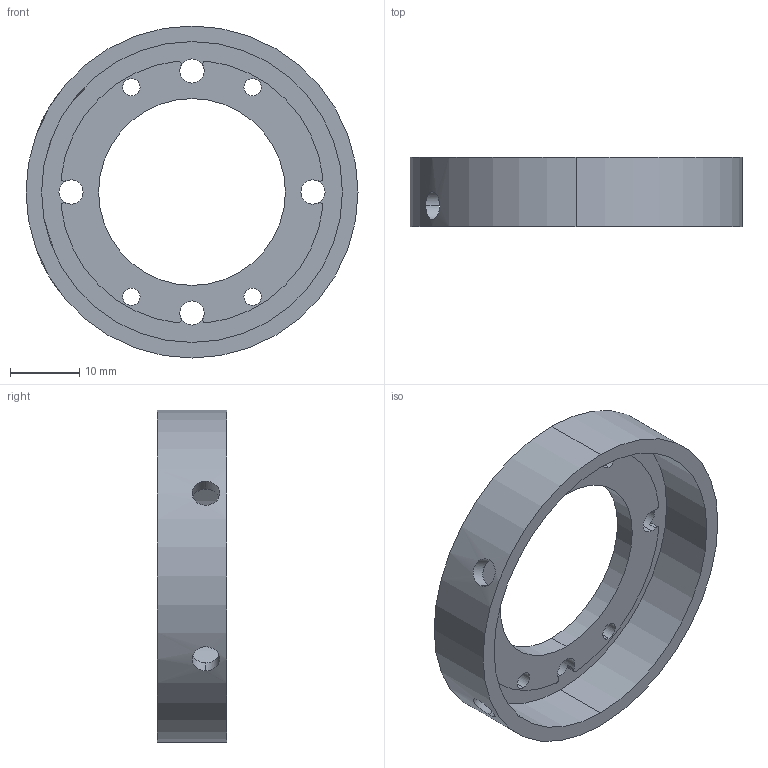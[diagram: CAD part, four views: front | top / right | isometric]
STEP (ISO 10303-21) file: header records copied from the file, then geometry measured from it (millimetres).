
FILE_DESCRIPTION (( 'STEP AP203' ), '1' );
FILE_NAME ('OPT_GRISM_0010 [2026-04-04].STEP', '2026-04-04T10:55:45', ( '' ), ( '' ), 'SwSTEP 2.0', 'SolidWorks 2014', '' );
FILE_SCHEMA (( 'CONFIG_CONTROL_DESIGN' ));
Length unit declared in the file: millimetre
Products named in the file (1): OPT_GRISM_0010 [2026-04-04]
Bounding box: 48 x 10 x 48 mm (x, y, z)
Volume: 5327.1 mm3; surface area: 5587.7 mm2
Topology: 1 solids, 1 shells, 46 faces, 138 edges, 92 vertices
Faces by surface type: cylinder 42, plane 4
Entity records: 1927 total; most frequent: CARTESIAN_POINT 493, DIRECTION 308, ORIENTED_EDGE 276, EDGE_CURVE 138, AXIS2_PLACEMENT_3D 131, VERTEX_POINT 92, CIRCLE 84, EDGE_LOOP 66
